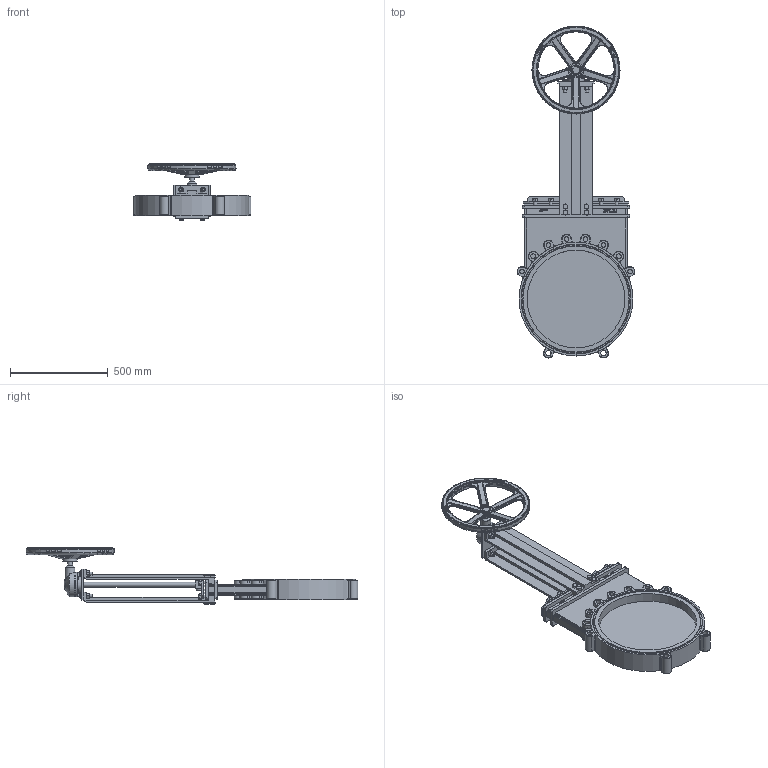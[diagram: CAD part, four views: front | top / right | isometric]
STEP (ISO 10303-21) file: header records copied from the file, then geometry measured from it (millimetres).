
FILE_DESCRIPTION(('STEP AP242'), '1');
FILE_NAME('GVKN1331N-2W-Fb-R Çàäâèæêà øèáåðíàÿ DN.ru Äó500 Ðó10 Ðð4', '2026-06-07T09:19:28', ('R2D2'), (''), 'C3D Converter', 'C3D Toolkit', '');
FILE_SCHEMA(('AP242_MANAGED_MODEL_BASED_3D_ENGINEERING_MIM_LF { 1 0 10303 442 1 1 4 }'));
Length unit declared in the file: millimetre
Products named in the file (1): GVKN1331N-2W-Fb-R
Bounding box: 602.36 x 1696.68 x 286.31 mm (x, y, z)
Volume: 25714170.5 mm3; surface area: 2452833 mm2
Topology: 1 solids, 1 shells, 1946 faces, 4903 edges, 3046 vertices
Faces by surface type: plane 834, cylinder 416, torus 270, bspline 209, extrusion 100, sphere 59, cone 58
Full cylindrical faces by diameter (mm): 10 x4, 16 x8, 18 x8, 24 x16, 25 x3, 27 x2, 50 x1, 52.5 x1, 75 x1, 125 x2, 390 x1, 402 x1, 438 x1, 450 x1, 500 x2, 542 x2, 562 x2, 582 x1
Entity records: 117645 total; most frequent: CARTESIAN_POINT 57318, ORIENTED_EDGE 9584, DIRECTION 8586, EDGE_CURVE 4792, AXIS2_PLACEMENT_3D 3118, VERTEX_POINT 3046, VECTOR 2350, LINE 2250
